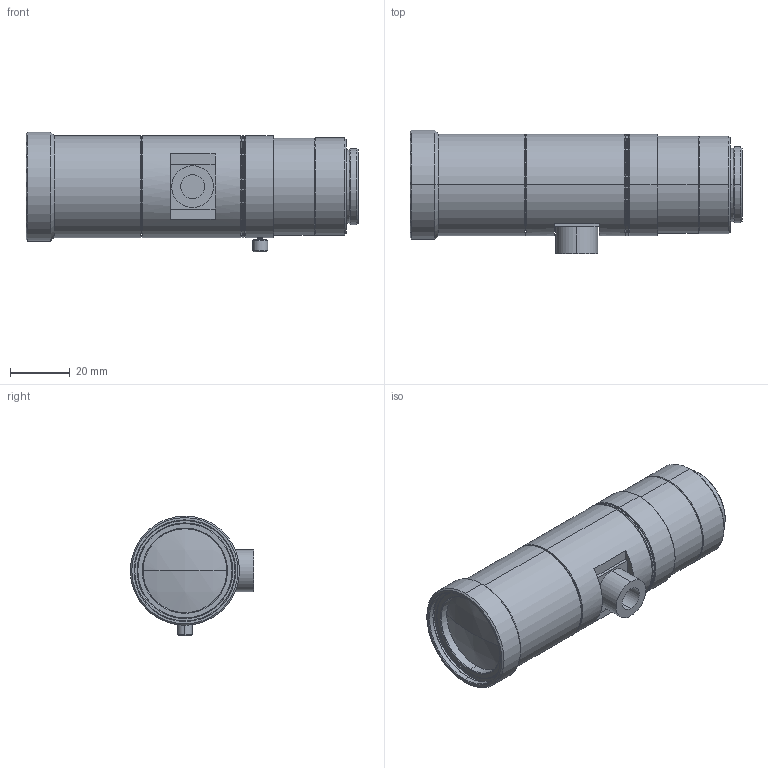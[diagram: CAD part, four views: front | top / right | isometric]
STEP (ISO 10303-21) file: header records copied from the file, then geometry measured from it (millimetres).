
FILE_DESCRIPTION (( 'STEP AP203' ), '1' );
FILE_NAME ('VS-TCT1-65CO_S.STEP', '2016-08-30T07:12:39', ( '' ), ( '' ), 'SwSTEP 2.0', 'SolidWorks 2016', '' );
FILE_SCHEMA (( 'CONFIG_CONTROL_DESIGN' ));
Length unit declared in the file: millimetre
Products named in the file (1): VS-TCT1-65CO_S
Bounding box: 110.97 x 41.25 x 40.05 mm (x, y, z)
Volume: 91823.1 mm3; surface area: 17411.5 mm2
Topology: 2 solids, 2 shells, 141 faces, 287 edges, 170 vertices
Faces by surface type: cone 60, cylinder 48, plane 29, sphere 4
Entity records: 3796 total; most frequent: DIRECTION 729, CARTESIAN_POINT 631, ORIENTED_EDGE 574, AXIS2_PLACEMENT_3D 302, EDGE_CURVE 287, VERTEX_POINT 170, EDGE_LOOP 163, CIRCLE 160
